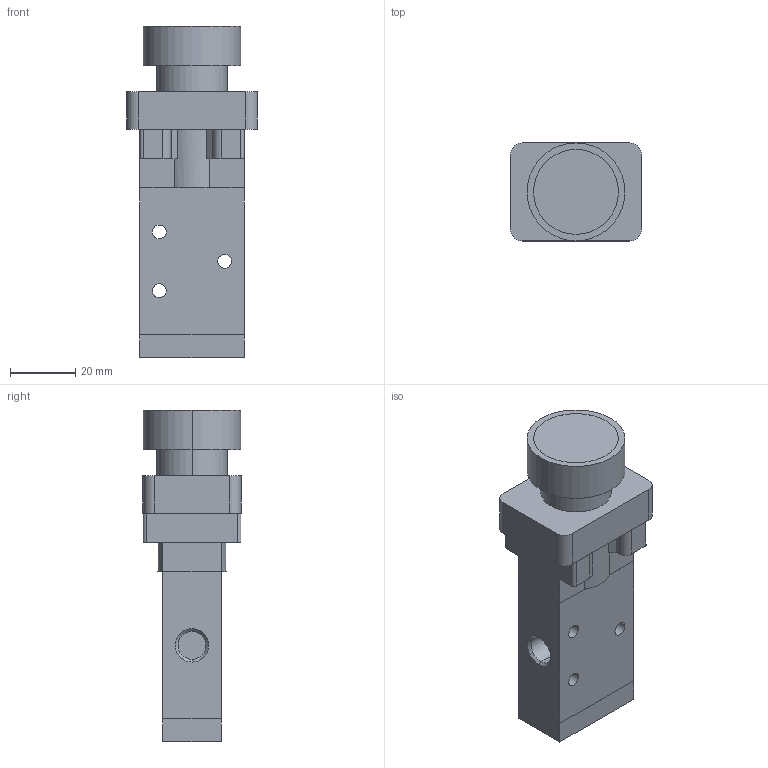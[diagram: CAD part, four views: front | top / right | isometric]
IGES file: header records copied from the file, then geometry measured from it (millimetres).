
Global section: file name: No Iges File Name specified; native system: AutoDesk Inventor R11.0; preprocessor: AutoDesk Inventor Iges Exporter R11.0; author: No Author specified; organization: No Organization specified; date: 20061219.113846; units: millimetre
Bounding box: 40 x 30.02 x 101.5 mm (x, y, z)
Volume: 65691.2 mm3; surface area: 14875.3 mm2
Topology: 1 solids, 1 shells, 90 faces, 230 edges, 150 vertices
Faces by surface type: plane 45, cylinder 18, bspline 15, revolution 12
